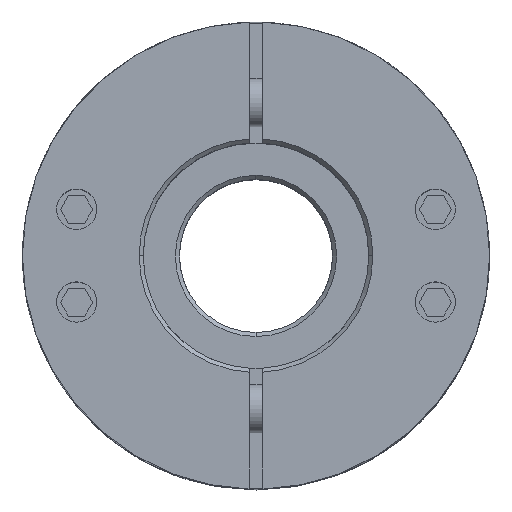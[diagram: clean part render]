
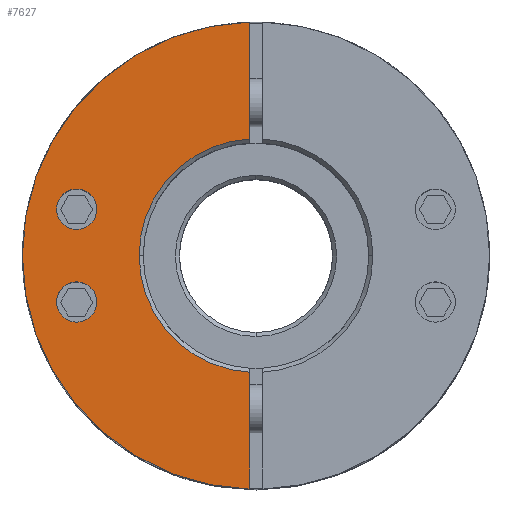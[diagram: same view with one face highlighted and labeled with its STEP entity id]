
A CAD part, top view. The second image highlights one B-rep face of the part: STEP entity #7627.
In plain terms, the highlighted planar face has unit normal (0, 0, 1).
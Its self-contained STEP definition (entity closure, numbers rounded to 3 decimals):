
#4241=CARTESIAN_POINT('',(-19.767,-5.759,27.125));
#4242=VERTEX_POINT('',#4241);
#4251=CARTESIAN_POINT('',(-24.767,-5.759,27.125));
#4252=VERTEX_POINT('',#4251);
#4253=CARTESIAN_POINT('',(-22.267,-5.759,27.125));
#4254=DIRECTION('',(0.0,0.0,-1.0));
#4255=DIRECTION('',(1.0,0.0,0.0));
#4256=AXIS2_PLACEMENT_3D('',#4253,#4254,#4255);
#4257=CIRCLE('',#4256,2.5);
#4258=EDGE_CURVE('',#4252,#4242,#4257,.T.);
#4367=CARTESIAN_POINT('',(-19.767,5.759,27.125));
#4368=VERTEX_POINT('',#4367);
#4377=CARTESIAN_POINT('',(-24.767,5.759,27.125));
#4378=VERTEX_POINT('',#4377);
#4379=CARTESIAN_POINT('',(-22.267,5.759,27.125));
#4380=DIRECTION('',(0.0,0.0,-1.0));
#4381=DIRECTION('',(1.0,0.0,0.0));
#4382=AXIS2_PLACEMENT_3D('',#4379,#4380,#4381);
#4383=CIRCLE('',#4382,2.5);
#4384=EDGE_CURVE('',#4378,#4368,#4383,.T.);
#4596=CARTESIAN_POINT('',(-29.0,0.,27.125));
#4597=VERTEX_POINT('',#4596);
#4604=CARTESIAN_POINT('',(-0.75,28.99,27.125));
#4605=VERTEX_POINT('',#4604);
#4606=CARTESIAN_POINT('',(0.0,0.0,27.125));
#4607=DIRECTION('',(0.0,0.0,-1.0));
#4608=DIRECTION('',(1.0,0.0,0.0));
#4609=AXIS2_PLACEMENT_3D('',#4606,#4607,#4608);
#4610=CIRCLE('',#4609,29.0);
#4611=EDGE_CURVE('',#4597,#4605,#4610,.T.);
#4958=CARTESIAN_POINT('',(-14.5,0.,27.125));
#4959=VERTEX_POINT('',#4958);
#4975=CARTESIAN_POINT('',(-0.75,14.481,27.125));
#4976=VERTEX_POINT('',#4975);
#4990=CARTESIAN_POINT('',(0.0,0.0,27.125));
#4991=DIRECTION('',(0.0,0.0,1.0));
#4992=DIRECTION('',(-1.0,0.0,0.0));
#4993=AXIS2_PLACEMENT_3D('',#4990,#4991,#4992);
#4994=CIRCLE('',#4993,14.5);
#4995=EDGE_CURVE('',#4976,#4959,#4994,.T.);
#7380=CARTESIAN_POINT('',(-0.75,-14.481,27.125));
#7381=VERTEX_POINT('',#7380);
#7382=CARTESIAN_POINT('',(0.0,0.0,27.125));
#7383=DIRECTION('',(0.0,0.0,1.0));
#7384=DIRECTION('',(-1.0,0.0,0.0));
#7385=AXIS2_PLACEMENT_3D('',#7382,#7383,#7384);
#7386=CIRCLE('',#7385,14.5);
#7387=EDGE_CURVE('',#4959,#7381,#7386,.T.);
#7420=CARTESIAN_POINT('',(-0.75,14.481,27.125));
#7421=DIRECTION('',(0.0,1.0,0.0));
#7422=VECTOR('',#7421,14.51);
#7423=LINE('',#7420,#7422);
#7424=EDGE_CURVE('',#4976,#4605,#7423,.T.);
#7534=CARTESIAN_POINT('',(-0.75,-28.99,27.125));
#7535=VERTEX_POINT('',#7534);
#7536=CARTESIAN_POINT('',(-0.75,-28.99,27.125));
#7537=DIRECTION('',(0.0,1.0,0.0));
#7538=VECTOR('',#7537,14.51);
#7539=LINE('',#7536,#7538);
#7540=EDGE_CURVE('',#7535,#7381,#7539,.T.);
#7588=CARTESIAN_POINT('',(2.636,0.,27.125));
#7589=DIRECTION('',(0.0,0.0,1.0));
#7590=DIRECTION('',(1.0,0.0,0.0));
#7591=AXIS2_PLACEMENT_3D('',#7588,#7589,#7590);
#7592=PLANE('',#7591);
#7593=ORIENTED_EDGE('',*,*,#4995,.F.);
#7594=ORIENTED_EDGE('',*,*,#7424,.T.);
#7595=ORIENTED_EDGE('',*,*,#4611,.F.);
#7596=CARTESIAN_POINT('',(0.0,0.0,27.125));
#7597=DIRECTION('',(0.0,0.0,-1.0));
#7598=DIRECTION('',(1.0,0.0,0.0));
#7599=AXIS2_PLACEMENT_3D('',#7596,#7597,#7598);
#7600=CIRCLE('',#7599,29.0);
#7601=EDGE_CURVE('',#7535,#4597,#7600,.T.);
#7602=ORIENTED_EDGE('',*,*,#7601,.F.);
#7603=ORIENTED_EDGE('',*,*,#7540,.T.);
#7604=ORIENTED_EDGE('',*,*,#7387,.F.);
#7605=EDGE_LOOP('',(#7593,#7594,#7595,#7602,#7603,#7604));
#7606=FACE_OUTER_BOUND('',#7605,.T.);
#7607=CARTESIAN_POINT('',(-22.267,-5.759,27.125));
#7608=DIRECTION('',(0.0,0.0,-1.0));
#7609=DIRECTION('',(1.0,0.0,0.0));
#7610=AXIS2_PLACEMENT_3D('',#7607,#7608,#7609);
#7611=CIRCLE('',#7610,2.5);
#7612=EDGE_CURVE('',#4242,#4252,#7611,.T.);
#7613=ORIENTED_EDGE('',*,*,#7612,.T.);
#7614=ORIENTED_EDGE('',*,*,#4258,.T.);
#7615=EDGE_LOOP('',(#7613,#7614));
#7616=FACE_BOUND('',#7615,.T.);
#7617=CARTESIAN_POINT('',(-22.267,5.759,27.125));
#7618=DIRECTION('',(0.0,0.0,-1.0));
#7619=DIRECTION('',(1.0,0.0,0.0));
#7620=AXIS2_PLACEMENT_3D('',#7617,#7618,#7619);
#7621=CIRCLE('',#7620,2.5);
#7622=EDGE_CURVE('',#4368,#4378,#7621,.T.);
#7623=ORIENTED_EDGE('',*,*,#7622,.T.);
#7624=ORIENTED_EDGE('',*,*,#4384,.T.);
#7625=EDGE_LOOP('',(#7623,#7624));
#7626=FACE_BOUND('',#7625,.T.);
#7627=ADVANCED_FACE('',(#7606,#7616,#7626),#7592,.T.);
